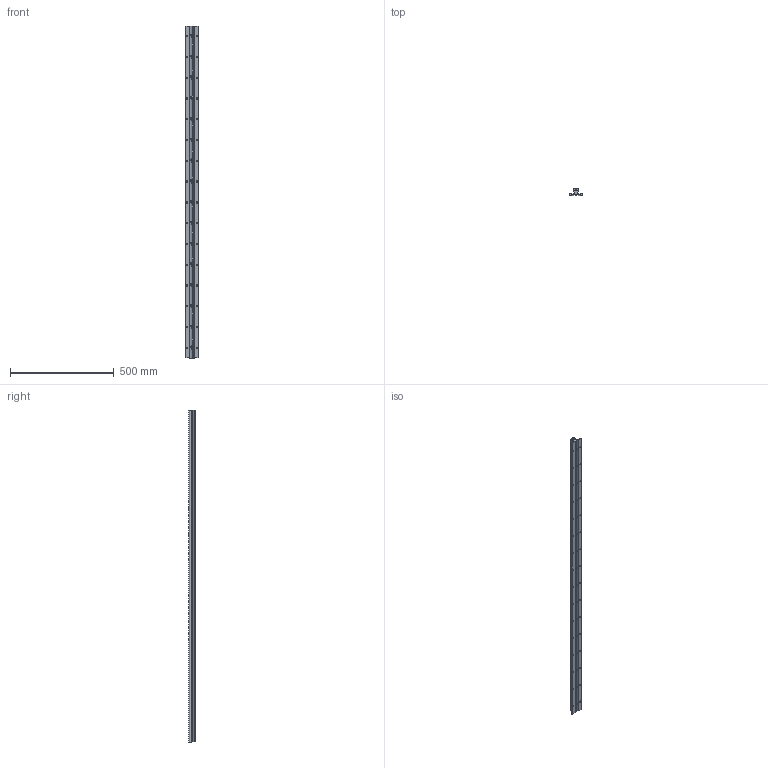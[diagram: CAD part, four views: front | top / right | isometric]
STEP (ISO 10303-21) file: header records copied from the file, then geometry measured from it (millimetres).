
FILE_DESCRIPTION (( 'STEP AP203' ), '1' );
FILE_NAME ('LF 2_-_LF 2 1598 mm lang.step', '2005-06-03T06:15:42', ( ' ' ), ( ' ' ), 'SwSTEP 2.0', 'SolidWorks 2004231', '' );
FILE_SCHEMA (( 'CONFIG_CONTROL_DESIGN' ));
Length unit declared in the file: millimetre
Products named in the file (1): LF 2_-_LF 2  1598 mm lang
Bounding box: 62 x 31 x 1598 mm (x, y, z)
Volume: 1111997.5 mm3; surface area: 361180.3 mm2
Topology: 1 solids, 1 shells, 841 faces, 2198 edges, 1326 vertices
Faces by surface type: cylinder 426, plane 287, cone 64, torus 64
Entity records: 25965 total; most frequent: CARTESIAN_POINT 6862, ORIENTED_EDGE 4268, DIRECTION 3650, EDGE_CURVE 2134, VERTEX_POINT 1326, AXIS2_PLACEMENT_3D 1314, VECTOR 1022, LINE 1022
